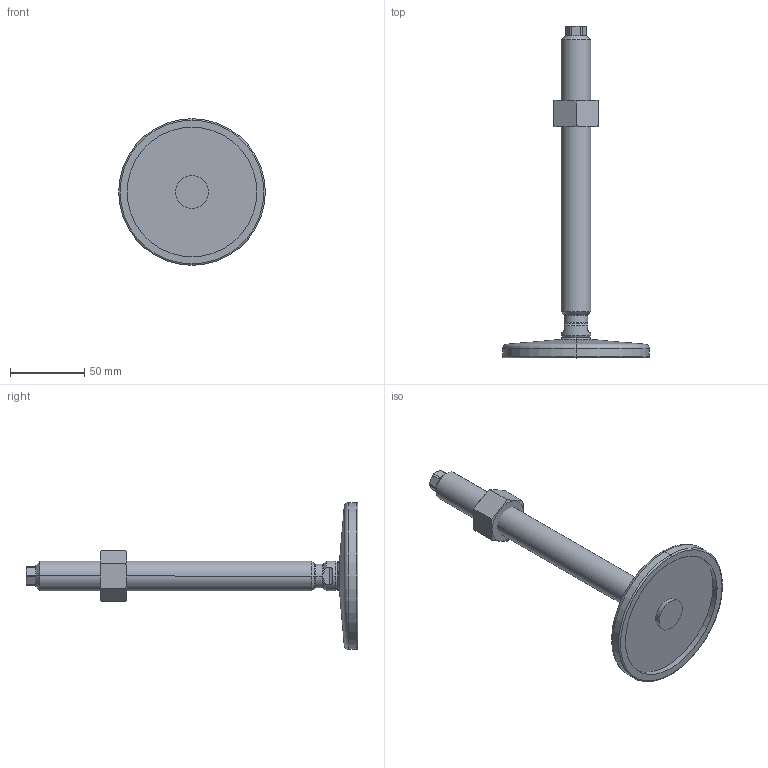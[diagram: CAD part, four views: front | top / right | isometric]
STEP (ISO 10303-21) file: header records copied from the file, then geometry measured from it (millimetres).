
FILE_DESCRIPTION (( 'STEP AP214' ), '1' );
FILE_NAME ('21-100-M20-200-D0-VK.step', '2020-10-02T17:37:01', ( '' ), ( '' ), 'SwSTEP 2.0', 'SolidWorks 2019', '' );
FILE_SCHEMA (( 'AUTOMOTIVE_DESIGN' ));
Length unit declared in the file: millimetre
Products named in the file (4): WB21_Fußteller 21^WB21_V_D0-100-R12-B9 (M20); 21-100-M20-200-D0-VK; WB21_Spindel_V^WB21_V_M20-200; WB4032^WB21_V_M20
Assembly tree (3 placements, depth 2):
  21-100-M20-200-D0-VK
    WB21_Fußteller 21^WB21_V_D0-100-R12-B9 (M20)
    WB21_Spindel_V^WB21_V_M20-200
    WB4032^WB21_V_M20
Bounding box: 99 x 224.02 x 99 mm (x, y, z)
Volume: 127489.5 mm3; surface area: 37331.2 mm2
Topology: 3 solids, 3 shells, 101 faces, 225 edges, 133 vertices
Faces by surface type: cone 33, plane 29, cylinder 25, torus 10, sphere 4
Entity records: 3164 total; most frequent: CARTESIAN_POINT 737, DIRECTION 492, ORIENTED_EDGE 450, EDGE_CURVE 225, AXIS2_PLACEMENT_3D 212, VERTEX_POINT 133, EDGE_LOOP 106, CIRCLE 105
